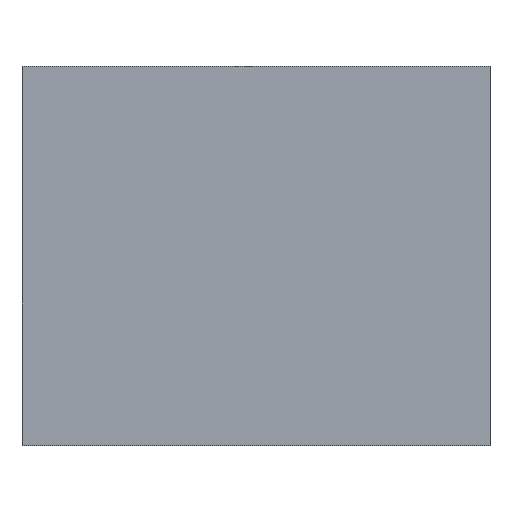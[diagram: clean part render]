
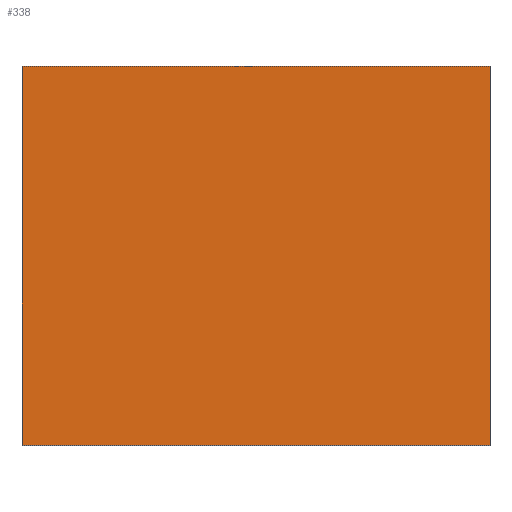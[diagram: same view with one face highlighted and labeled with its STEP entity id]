
A CAD part, top view. The second image highlights one B-rep face of the part: STEP entity #338.
In plain terms, the highlighted planar face has unit normal (0, 0, 1).
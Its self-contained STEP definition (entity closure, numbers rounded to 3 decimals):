
#24 = VERTEX_POINT('',#25);
#25 = CARTESIAN_POINT('',(-1.05,-0.85,0.55));
#32 = PLANE('',#33);
#33 = AXIS2_PLACEMENT_3D('',#34,#35,#36);
#34 = CARTESIAN_POINT('',(-1.05,-0.85,0.));
#35 = DIRECTION('',(1.,0.,0.));
#36 = DIRECTION('',(0.,0.,1.));
#44 = PLANE('',#45);
#45 = AXIS2_PLACEMENT_3D('',#46,#47,#48);
#46 = CARTESIAN_POINT('',(-1.05,-0.85,0.));
#47 = DIRECTION('',(0.,1.,0.));
#48 = DIRECTION('',(0.,0.,1.));
#85 = VERTEX_POINT('',#86);
#86 = CARTESIAN_POINT('',(-1.05,0.85,0.55));
#100 = PLANE('',#101);
#101 = AXIS2_PLACEMENT_3D('',#102,#103,#104);
#102 = CARTESIAN_POINT('',(-1.05,0.85,0.));
#103 = DIRECTION('',(0.,1.,0.));
#104 = DIRECTION('',(0.,0.,1.));
#112 = EDGE_CURVE('',#24,#85,#113,.T.);
#113 = SURFACE_CURVE('',#114,(#118,#125),.PCURVE_S1.);
#114 = LINE('',#115,#116);
#115 = CARTESIAN_POINT('',(-1.05,-0.85,0.55));
#116 = VECTOR('',#117,1.);
#117 = DIRECTION('',(0.,1.,0.));
#118 = PCURVE('',#32,#119);
#119 = DEFINITIONAL_REPRESENTATION('',(#120),#124);
#120 = LINE('',#121,#122);
#121 = CARTESIAN_POINT('',(0.55,0.));
#122 = VECTOR('',#123,1.);
#123 = DIRECTION('',(0.,-1.));
#124 = ( GEOMETRIC_REPRESENTATION_CONTEXT(2) 
PARAMETRIC_REPRESENTATION_CONTEXT() REPRESENTATION_CONTEXT('2D SPACE',''
  ) );
#125 = PCURVE('',#126,#131);
#126 = PLANE('',#127);
#127 = AXIS2_PLACEMENT_3D('',#128,#129,#130);
#128 = CARTESIAN_POINT('',(-1.05,-0.85,0.55));
#129 = DIRECTION('',(0.,0.,1.));
#130 = DIRECTION('',(1.,0.,0.));
#131 = DEFINITIONAL_REPRESENTATION('',(#132),#136);
#132 = LINE('',#133,#134);
#133 = CARTESIAN_POINT('',(0.,0.));
#134 = VECTOR('',#135,1.);
#135 = DIRECTION('',(0.,1.));
#136 = ( GEOMETRIC_REPRESENTATION_CONTEXT(2) 
PARAMETRIC_REPRESENTATION_CONTEXT() REPRESENTATION_CONTEXT('2D SPACE',''
  ) );
#144 = VERTEX_POINT('',#145);
#145 = CARTESIAN_POINT('',(1.05,-0.85,0.55));
#152 = PLANE('',#153);
#153 = AXIS2_PLACEMENT_3D('',#154,#155,#156);
#154 = CARTESIAN_POINT('',(1.05,-0.85,0.));
#155 = DIRECTION('',(1.,0.,0.));
#156 = DIRECTION('',(0.,0.,1.));
#195 = VERTEX_POINT('',#196);
#196 = CARTESIAN_POINT('',(1.05,0.85,0.55));
#217 = EDGE_CURVE('',#144,#195,#218,.T.);
#218 = SURFACE_CURVE('',#219,(#223,#230),.PCURVE_S1.);
#219 = LINE('',#220,#221);
#220 = CARTESIAN_POINT('',(1.05,-0.85,0.55));
#221 = VECTOR('',#222,1.);
#222 = DIRECTION('',(0.,1.,0.));
#223 = PCURVE('',#152,#224);
#224 = DEFINITIONAL_REPRESENTATION('',(#225),#229);
#225 = LINE('',#226,#227);
#226 = CARTESIAN_POINT('',(0.55,0.));
#227 = VECTOR('',#228,1.);
#228 = DIRECTION('',(0.,-1.));
#229 = ( GEOMETRIC_REPRESENTATION_CONTEXT(2) 
PARAMETRIC_REPRESENTATION_CONTEXT() REPRESENTATION_CONTEXT('2D SPACE',''
  ) );
#230 = PCURVE('',#126,#231);
#231 = DEFINITIONAL_REPRESENTATION('',(#232),#236);
#232 = LINE('',#233,#234);
#233 = CARTESIAN_POINT('',(2.1,0.));
#234 = VECTOR('',#235,1.);
#235 = DIRECTION('',(0.,1.));
#236 = ( GEOMETRIC_REPRESENTATION_CONTEXT(2) 
PARAMETRIC_REPRESENTATION_CONTEXT() REPRESENTATION_CONTEXT('2D SPACE',''
  ) );
#263 = EDGE_CURVE('',#24,#144,#264,.T.);
#264 = SURFACE_CURVE('',#265,(#269,#276),.PCURVE_S1.);
#265 = LINE('',#266,#267);
#266 = CARTESIAN_POINT('',(-1.05,-0.85,0.55));
#267 = VECTOR('',#268,1.);
#268 = DIRECTION('',(1.,0.,0.));
#269 = PCURVE('',#44,#270);
#270 = DEFINITIONAL_REPRESENTATION('',(#271),#275);
#271 = LINE('',#272,#273);
#272 = CARTESIAN_POINT('',(0.55,0.));
#273 = VECTOR('',#274,1.);
#274 = DIRECTION('',(0.,1.));
#275 = ( GEOMETRIC_REPRESENTATION_CONTEXT(2) 
PARAMETRIC_REPRESENTATION_CONTEXT() REPRESENTATION_CONTEXT('2D SPACE',''
  ) );
#276 = PCURVE('',#126,#277);
#277 = DEFINITIONAL_REPRESENTATION('',(#278),#282);
#278 = LINE('',#279,#280);
#279 = CARTESIAN_POINT('',(0.,0.));
#280 = VECTOR('',#281,1.);
#281 = DIRECTION('',(1.,0.));
#282 = ( GEOMETRIC_REPRESENTATION_CONTEXT(2) 
PARAMETRIC_REPRESENTATION_CONTEXT() REPRESENTATION_CONTEXT('2D SPACE',''
  ) );
#310 = EDGE_CURVE('',#85,#195,#311,.T.);
#311 = SURFACE_CURVE('',#312,(#316,#323),.PCURVE_S1.);
#312 = LINE('',#313,#314);
#313 = CARTESIAN_POINT('',(-1.05,0.85,0.55));
#314 = VECTOR('',#315,1.);
#315 = DIRECTION('',(1.,0.,0.));
#316 = PCURVE('',#100,#317);
#317 = DEFINITIONAL_REPRESENTATION('',(#318),#322);
#318 = LINE('',#319,#320);
#319 = CARTESIAN_POINT('',(0.55,0.));
#320 = VECTOR('',#321,1.);
#321 = DIRECTION('',(0.,1.));
#322 = ( GEOMETRIC_REPRESENTATION_CONTEXT(2) 
PARAMETRIC_REPRESENTATION_CONTEXT() REPRESENTATION_CONTEXT('2D SPACE',''
  ) );
#323 = PCURVE('',#126,#324);
#324 = DEFINITIONAL_REPRESENTATION('',(#325),#329);
#325 = LINE('',#326,#327);
#326 = CARTESIAN_POINT('',(0.,1.7));
#327 = VECTOR('',#328,1.);
#328 = DIRECTION('',(1.,0.));
#329 = ( GEOMETRIC_REPRESENTATION_CONTEXT(2) 
PARAMETRIC_REPRESENTATION_CONTEXT() REPRESENTATION_CONTEXT('2D SPACE',''
  ) );
#338 = ADVANCED_FACE('',(#339),#126,.T.);
#339 = FACE_BOUND('',#340,.T.);
#340 = EDGE_LOOP('',(#341,#342,#343,#344));
#341 = ORIENTED_EDGE('',*,*,#112,.F.);
#342 = ORIENTED_EDGE('',*,*,#263,.T.);
#343 = ORIENTED_EDGE('',*,*,#217,.T.);
#344 = ORIENTED_EDGE('',*,*,#310,.F.);
